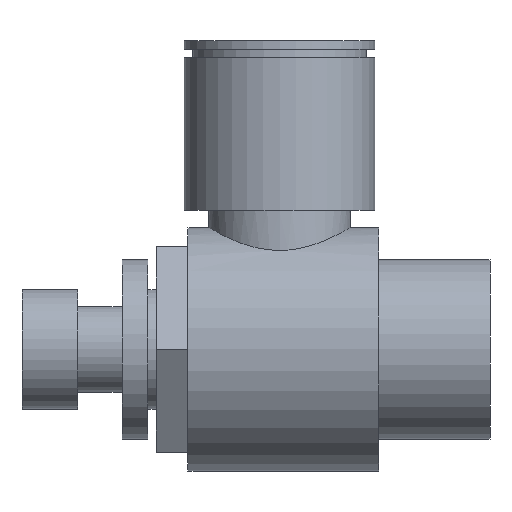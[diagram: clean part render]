
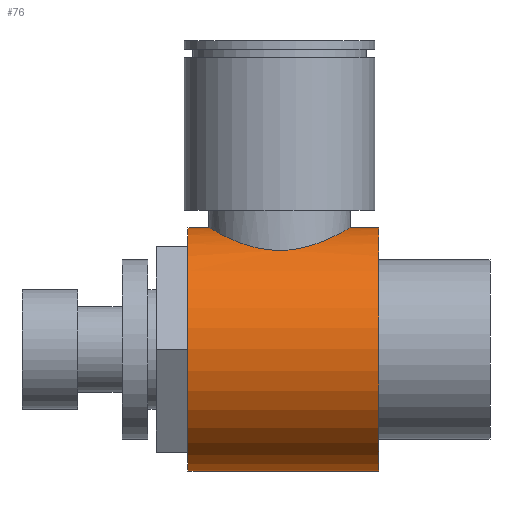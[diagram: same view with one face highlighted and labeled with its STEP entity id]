
A CAD part, left-side view. The second image highlights one B-rep face of the part: STEP entity #76.
In plain terms, the highlighted cylindrical face has radius 14.25 mm (diameter 28.5 mm), a partial arc.
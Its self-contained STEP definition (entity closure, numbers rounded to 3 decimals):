
#76 = ADVANCED_FACE( '', ( #119 ), #120, .T. );
#119 = FACE_OUTER_BOUND( '', #211, .T. );
#120 = CYLINDRICAL_SURFACE( '', #212, 14.25 );
#211 = EDGE_LOOP( '', ( #308, #309, #310, #311, #312, #313, #314 ) );
#212 = AXIS2_PLACEMENT_3D( '', #315, #316, #317 );
#308 = ORIENTED_EDGE( '', *, *, #600, .F. );
#309 = ORIENTED_EDGE( '', *, *, #601, .T. );
#310 = ORIENTED_EDGE( '', *, *, #602, .F. );
#311 = ORIENTED_EDGE( '', *, *, #603, .F. );
#312 = ORIENTED_EDGE( '', *, *, #604, .F. );
#313 = ORIENTED_EDGE( '', *, *, #605, .T. );
#314 = ORIENTED_EDGE( '', *, *, #606, .T. );
#315 = CARTESIAN_POINT( '', ( 0., 16.85, 0. ) );
#316 = DIRECTION( '', ( 0., 1., 0. ) );
#317 = DIRECTION( '', ( 0., 0., 1. ) );
#600 = EDGE_CURVE( '', #690, #691, #692, .T. );
#601 = EDGE_CURVE( '', #690, #693, #694, .T. );
#602 = EDGE_CURVE( '', #695, #693, #696, .T. );
#603 = EDGE_CURVE( '', #697, #695, #698, .T. );
#604 = EDGE_CURVE( '', #699, #697, #700, .T. );
#605 = EDGE_CURVE( '', #699, #701, #702, .T. );
#606 = EDGE_CURVE( '', #701, #691, #703, .T. );
#690 = VERTEX_POINT( '', #835 );
#691 = VERTEX_POINT( '', #836 );
#692 = LINE( '', #837, #838 );
#693 = VERTEX_POINT( '', #839 );
#694 = CIRCLE( '', #840, 14.25 );
#695 = VERTEX_POINT( '', #841 );
#696 = LINE( '', #842, #843 );
#697 = VERTEX_POINT( '', #844 );
#698 = CIRCLE( '', #845, 14.25 );
#699 = VERTEX_POINT( '', #846 );
#700 = LINE( '', #847, #848 );
#701 = VERTEX_POINT( '', #849 );
#702 = B_SPLINE_CURVE_WITH_KNOTS( '', 3, ( #850, #851, #852, #853, #854, #855, #856, #857, #858, #859, #860, #861, #862, #863, #864, #865, #866, #867 ), .UNSPECIFIED., .F., .F., ( 4, 2, 2, 2, 2, 2, 2, 2, 4 ), ( 38.621, 40.226, 41.83, 43.435, 45.04, 46.654, 48.267, 49.881, 51.495 ), .UNSPECIFIED. );
#703 = B_SPLINE_CURVE_WITH_KNOTS( '', 3, ( #868, #869, #870, #871, #872, #873, #874, #875, #876, #877, #878, #879, #880, #881, #882, #883, #884, #885 ), .UNSPECIFIED., .F., .F., ( 4, 2, 2, 2, 2, 2, 2, 2, 4 ), ( 0., 1.614, 3.227, 4.841, 6.455, 8.06, 9.664, 11.269, 12.874 ), .UNSPECIFIED. );
#835 = CARTESIAN_POINT( '', ( 0., 28., 14.25 ) );
#836 = CARTESIAN_POINT( '', ( 0., 25.6, 14.25 ) );
#837 = CARTESIAN_POINT( '', ( 0., 16.85, 14.25 ) );
#838 = VECTOR( '', #1084, 1. );
#839 = CARTESIAN_POINT( '', ( 0., 28., -14.25 ) );
#840 = AXIS2_PLACEMENT_3D( '', #1085, #1086, #1087 );
#841 = CARTESIAN_POINT( '', ( 0., 5.7, -14.25 ) );
#842 = CARTESIAN_POINT( '', ( 0., 16.85, -14.25 ) );
#843 = VECTOR( '', #1088, 1. );
#844 = CARTESIAN_POINT( '', ( 0., 5.7, 14.25 ) );
#845 = AXIS2_PLACEMENT_3D( '', #1089, #1090, #1091 );
#846 = CARTESIAN_POINT( '', ( 0., 9., 14.25 ) );
#847 = CARTESIAN_POINT( '', ( 0., 16.85, 14.25 ) );
#848 = VECTOR( '', #1092, 1. );
#849 = CARTESIAN_POINT( '', ( -8.3, 17.3, 11.583 ) );
#850 = CARTESIAN_POINT( '', ( 0., 9., 14.25 ) );
#851 = CARTESIAN_POINT( '', ( -0.535, 9., 14.25 ) );
#852 = CARTESIAN_POINT( '', ( -1.084, 9.053, 14.219 ) );
#853 = CARTESIAN_POINT( '', ( -2.168, 9.269, 14.095 ) );
#854 = CARTESIAN_POINT( '', ( -2.703, 9.433, 14.001 ) );
#855 = CARTESIAN_POINT( '', ( -3.723, 9.861, 13.765 ) );
#856 = CARTESIAN_POINT( '', ( -4.208, 10.125, 13.623 ) );
#857 = CARTESIAN_POINT( '', ( -5.101, 10.73, 13.314 ) );
#858 = CARTESIAN_POINT( '', ( -5.509, 11.071, 13.148 ) );
#859 = CARTESIAN_POINT( '', ( -6.231, 11.793, 12.822 ) );
#860 = CARTESIAN_POINT( '', ( -6.572, 12.202, 12.649 ) );
#861 = CARTESIAN_POINT( '', ( -7.176, 13.095, 12.316 ) );
#862 = CARTESIAN_POINT( '', ( -7.439, 13.579, 12.156 ) );
#863 = CARTESIAN_POINT( '', ( -7.866, 14.595, 11.885 ) );
#864 = CARTESIAN_POINT( '', ( -8.03, 15.129, 11.773 ) );
#865 = CARTESIAN_POINT( '', ( -8.247, 16.212, 11.622 ) );
#866 = CARTESIAN_POINT( '', ( -8.3, 16.762, 11.583 ) );
#867 = CARTESIAN_POINT( '', ( -8.3, 17.3, 11.583 ) );
#868 = CARTESIAN_POINT( '', ( -8.3, 17.3, 11.583 ) );
#869 = CARTESIAN_POINT( '', ( -8.3, 17.838, 11.583 ) );
#870 = CARTESIAN_POINT( '', ( -8.247, 18.388, 11.622 ) );
#871 = CARTESIAN_POINT( '', ( -8.03, 19.471, 11.773 ) );
#872 = CARTESIAN_POINT( '', ( -7.866, 20.005, 11.885 ) );
#873 = CARTESIAN_POINT( '', ( -7.439, 21.021, 12.156 ) );
#874 = CARTESIAN_POINT( '', ( -7.176, 21.505, 12.316 ) );
#875 = CARTESIAN_POINT( '', ( -6.572, 22.398, 12.649 ) );
#876 = CARTESIAN_POINT( '', ( -6.231, 22.807, 12.822 ) );
#877 = CARTESIAN_POINT( '', ( -5.509, 23.529, 13.148 ) );
#878 = CARTESIAN_POINT( '', ( -5.101, 23.87, 13.314 ) );
#879 = CARTESIAN_POINT( '', ( -4.208, 24.475, 13.623 ) );
#880 = CARTESIAN_POINT( '', ( -3.723, 24.739, 13.765 ) );
#881 = CARTESIAN_POINT( '', ( -2.703, 25.167, 14.001 ) );
#882 = CARTESIAN_POINT( '', ( -2.168, 25.331, 14.095 ) );
#883 = CARTESIAN_POINT( '', ( -1.084, 25.547, 14.219 ) );
#884 = CARTESIAN_POINT( '', ( -0.535, 25.6, 14.25 ) );
#885 = CARTESIAN_POINT( '', ( 0., 25.6, 14.25 ) );
#1084 = DIRECTION( '', ( 0., -1., 0. ) );
#1085 = CARTESIAN_POINT( '', ( 0., 28., 0. ) );
#1086 = DIRECTION( '', ( 0., -1., 0. ) );
#1087 = DIRECTION( '', ( 0., 0., 1. ) );
#1088 = DIRECTION( '', ( 0., 1., 0. ) );
#1089 = CARTESIAN_POINT( '', ( 0., 5.7, 0. ) );
#1090 = DIRECTION( '', ( 0., -1., 0. ) );
#1091 = DIRECTION( '', ( 0., 0., 1. ) );
#1092 = DIRECTION( '', ( 0., -1., 0. ) );
